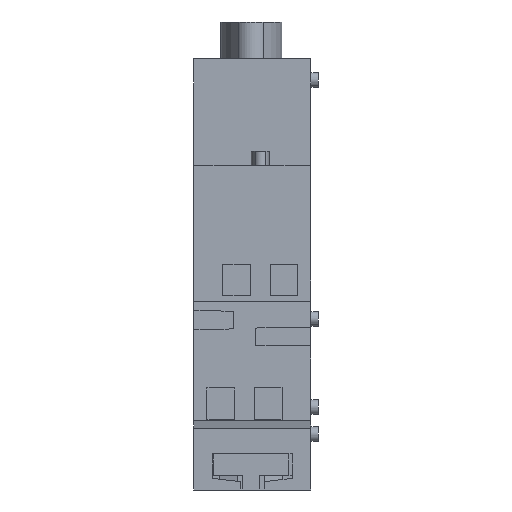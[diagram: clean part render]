
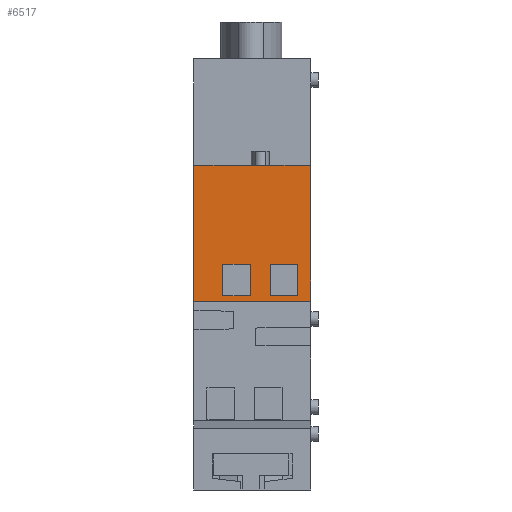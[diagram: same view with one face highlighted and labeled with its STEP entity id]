
A CAD part, front view. The second image highlights one B-rep face of the part: STEP entity #6517.
In plain terms, the highlighted planar face has unit normal (0, -1, 0).
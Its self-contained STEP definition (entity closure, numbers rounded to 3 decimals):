
#770=DIRECTION('',(0.,0.,1.));
#771=VECTOR('',#770,20.6);
#772=CARTESIAN_POINT('',(17.8,8.55,28.7));
#773=LINE('',#772,#771);
#1742=DIRECTION('',(1.,0.,0.));
#1743=VECTOR('',#1742,17.8);
#1744=CARTESIAN_POINT('',(0.,8.55,28.7));
#1745=LINE('',#1744,#1743);
#1766=DIRECTION('',(1.,0.,0.));
#1767=VECTOR('',#1766,6.6);
#1768=CARTESIAN_POINT('',(0.,8.55,49.3));
#1769=LINE('',#1768,#1767);
#1770=DIRECTION('',(0.,0.,1.));
#1771=VECTOR('',#1770,0.025);
#1772=CARTESIAN_POINT('',(6.6,8.55,49.3));
#1773=LINE('',#1772,#1771);
#1774=DIRECTION('',(1.,0.,0.));
#1775=VECTOR('',#1774,7.1);
#1776=CARTESIAN_POINT('',(6.6,8.55,49.325));
#1777=LINE('',#1776,#1775);
#1778=DIRECTION('',(1.,0.,0.));
#1779=VECTOR('',#1778,4.1);
#1780=CARTESIAN_POINT('',(13.7,8.55,49.3));
#1781=LINE('',#1780,#1779);
#1782=DIRECTION('',(0.,0.,1.));
#1783=VECTOR('',#1782,20.6);
#1784=CARTESIAN_POINT('',(0.,8.55,28.7));
#1785=LINE('',#1784,#1783);
#1786=DIRECTION('',(-1.,0.,0.));
#1787=VECTOR('',#1786,4.2);
#1788=CARTESIAN_POINT('',(8.6,8.55,34.3));
#1789=LINE('',#1788,#1787);
#1790=DIRECTION('',(0.,0.,-1.));
#1791=VECTOR('',#1790,4.8);
#1792=CARTESIAN_POINT('',(4.4,8.55,34.3));
#1793=LINE('',#1792,#1791);
#1794=DIRECTION('',(1.,0.,0.));
#1795=VECTOR('',#1794,4.2);
#1796=CARTESIAN_POINT('',(4.4,8.55,29.5));
#1797=LINE('',#1796,#1795);
#1798=DIRECTION('',(0.,0.,1.));
#1799=VECTOR('',#1798,4.8);
#1800=CARTESIAN_POINT('',(8.6,8.55,29.5));
#1801=LINE('',#1800,#1799);
#1802=DIRECTION('',(1.,0.,0.));
#1803=VECTOR('',#1802,4.2);
#1804=CARTESIAN_POINT('',(11.6,8.55,29.5));
#1805=LINE('',#1804,#1803);
#1806=DIRECTION('',(0.,0.,1.));
#1807=VECTOR('',#1806,4.8);
#1808=CARTESIAN_POINT('',(15.8,8.55,29.5));
#1809=LINE('',#1808,#1807);
#1810=DIRECTION('',(-1.,0.,0.));
#1811=VECTOR('',#1810,4.2);
#1812=CARTESIAN_POINT('',(15.8,8.55,34.3));
#1813=LINE('',#1812,#1811);
#1814=DIRECTION('',(0.,0.,-1.));
#1815=VECTOR('',#1814,4.8);
#1816=CARTESIAN_POINT('',(11.6,8.55,34.3));
#1817=LINE('',#1816,#1815);
#1929=DIRECTION('',(0.,0.,1.));
#1930=VECTOR('',#1929,0.025);
#1931=CARTESIAN_POINT('',(13.7,8.55,49.3));
#1932=LINE('',#1931,#1930);
#3256=CARTESIAN_POINT('',(0.,8.55,49.3));
#3257=VERTEX_POINT('',#3256);
#3258=CARTESIAN_POINT('',(0.,8.55,28.7));
#3259=VERTEX_POINT('',#3258);
#3568=CARTESIAN_POINT('',(17.8,8.55,28.7));
#3569=VERTEX_POINT('',#3568);
#3570=CARTESIAN_POINT('',(17.8,8.55,49.3));
#3571=VERTEX_POINT('',#3570);
#3878=CARTESIAN_POINT('',(6.6,8.55,49.3));
#3879=VERTEX_POINT('',#3878);
#3880=CARTESIAN_POINT('',(6.6,8.55,49.325));
#3881=VERTEX_POINT('',#3880);
#3882=CARTESIAN_POINT('',(13.7,8.55,49.325));
#3883=VERTEX_POINT('',#3882);
#3884=CARTESIAN_POINT('',(13.7,8.55,49.3));
#3885=VERTEX_POINT('',#3884);
#3886=CARTESIAN_POINT('',(8.6,8.55,34.3));
#3887=CARTESIAN_POINT('',(4.4,8.55,34.3));
#3888=VERTEX_POINT('',#3886);
#3889=VERTEX_POINT('',#3887);
#3890=CARTESIAN_POINT('',(4.4,8.55,29.5));
#3891=VERTEX_POINT('',#3890);
#3892=CARTESIAN_POINT('',(8.6,8.55,29.5));
#3893=VERTEX_POINT('',#3892);
#3894=CARTESIAN_POINT('',(11.6,8.55,29.5));
#3895=CARTESIAN_POINT('',(15.8,8.55,29.5));
#3896=VERTEX_POINT('',#3894);
#3897=VERTEX_POINT('',#3895);
#3898=CARTESIAN_POINT('',(15.8,8.55,34.3));
#3899=VERTEX_POINT('',#3898);
#3900=CARTESIAN_POINT('',(11.6,8.55,34.3));
#3901=VERTEX_POINT('',#3900);
#6477=CARTESIAN_POINT('',(0.,8.55,28.7));
#6478=DIRECTION('',(0.,-1.,0.));
#6479=DIRECTION('',(0.,0.,1.));
#6480=AXIS2_PLACEMENT_3D('',#6477,#6478,#6479);
#6481=PLANE('',#6480);
#6483=ORIENTED_EDGE('',*,*,#6482,.T.);
#6485=ORIENTED_EDGE('',*,*,#6484,.T.);
#6487=ORIENTED_EDGE('',*,*,#6486,.T.);
#6489=ORIENTED_EDGE('',*,*,#6488,.F.);
#6491=ORIENTED_EDGE('',*,*,#6490,.T.);
#6492=ORIENTED_EDGE('',*,*,#5124,.F.);
#6493=ORIENTED_EDGE('',*,*,#6458,.F.);
#6494=ORIENTED_EDGE('',*,*,#4303,.T.);
#6495=EDGE_LOOP('',(#6483,#6485,#6487,#6489,#6491,#6492,#6493,#6494));
#6496=FACE_OUTER_BOUND('',#6495,.F.);
#6498=ORIENTED_EDGE('',*,*,#6497,.T.);
#6500=ORIENTED_EDGE('',*,*,#6499,.T.);
#6502=ORIENTED_EDGE('',*,*,#6501,.T.);
#6504=ORIENTED_EDGE('',*,*,#6503,.T.);
#6505=EDGE_LOOP('',(#6498,#6500,#6502,#6504));
#6506=FACE_BOUND('',#6505,.F.);
#6508=ORIENTED_EDGE('',*,*,#6507,.T.);
#6510=ORIENTED_EDGE('',*,*,#6509,.T.);
#6512=ORIENTED_EDGE('',*,*,#6511,.T.);
#6514=ORIENTED_EDGE('',*,*,#6513,.T.);
#6515=EDGE_LOOP('',(#6508,#6510,#6512,#6514));
#6516=FACE_BOUND('',#6515,.F.);
#4303=EDGE_CURVE('',#3259,#3257,#1785,.T.);
#5124=EDGE_CURVE('',#3569,#3571,#773,.T.);
#6458=EDGE_CURVE('',#3259,#3569,#1745,.T.);
#6482=EDGE_CURVE('',#3257,#3879,#1769,.T.);
#6484=EDGE_CURVE('',#3879,#3881,#1773,.T.);
#6486=EDGE_CURVE('',#3881,#3883,#1777,.T.);
#6488=EDGE_CURVE('',#3885,#3883,#1932,.T.);
#6490=EDGE_CURVE('',#3885,#3571,#1781,.T.);
#6497=EDGE_CURVE('',#3888,#3889,#1789,.T.);
#6499=EDGE_CURVE('',#3889,#3891,#1793,.T.);
#6501=EDGE_CURVE('',#3891,#3893,#1797,.T.);
#6503=EDGE_CURVE('',#3893,#3888,#1801,.T.);
#6507=EDGE_CURVE('',#3896,#3897,#1805,.T.);
#6509=EDGE_CURVE('',#3897,#3899,#1809,.T.);
#6511=EDGE_CURVE('',#3899,#3901,#1813,.T.);
#6513=EDGE_CURVE('',#3901,#3896,#1817,.T.);
#6517=ADVANCED_FACE('',(#6496,#6506,#6516),#6481,.T.);
